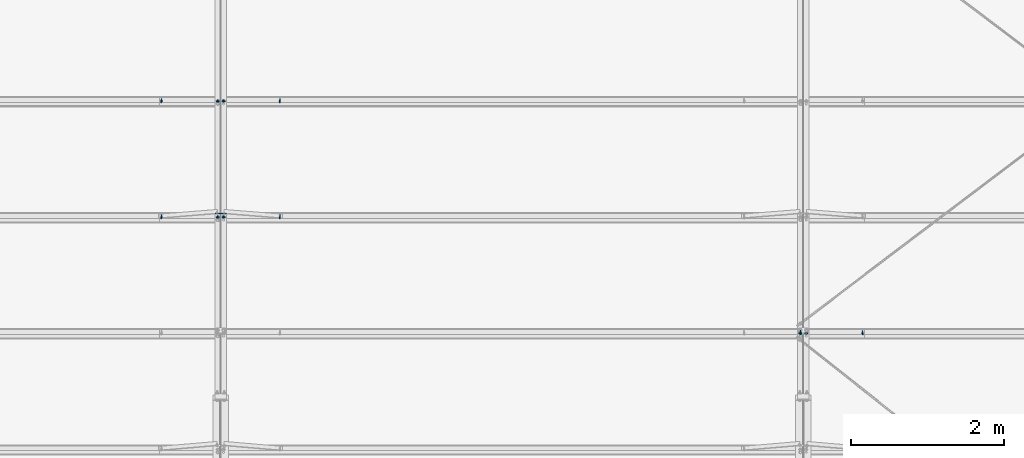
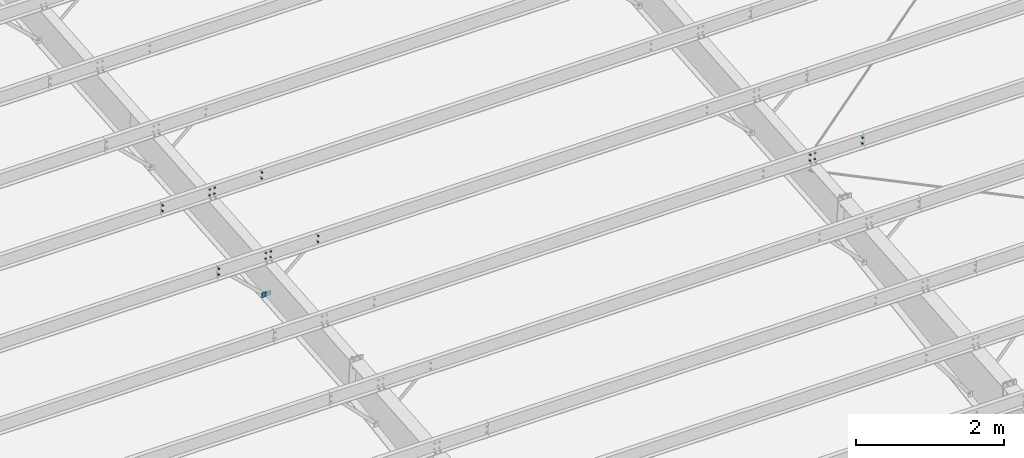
# One storey, part 77 of 185: 12 mechanical fasteners, 2 discrete accessories, 8 elements without a shape of their own.
"""IFC2X3 building model written with IfcOpenShell, lengths in millimetres."""

from ifc_helpers import new_model, si_unit, frame, origin_with_axes, origin_2d_with_axis, place, context, subcontext, project, spatial, polyline, rectangle, circle, outline, extrude, source, transform, mapped, material, type_object, element, aggregate, save


model = new_model("IFC2X3")

# Units and contexts
model_context = context("Model", 3, precision=1e-05, world=origin_with_axes())
body_context = subcontext(model_context, "Body", "Model", "MODEL_VIEW")
ifc_project = project(units=[si_unit("LENGTHUNIT", "METRE", prefix="MILLI"), si_unit("AREAUNIT", "SQUARE_METRE"), si_unit("VOLUMEUNIT", "CUBIC_METRE"), si_unit("MASSUNIT", "GRAM", prefix="KILO"), si_unit("TIMEUNIT", "SECOND"), si_unit("PLANEANGLEUNIT", "RADIAN"), si_unit("SOLIDANGLEUNIT", "STERADIAN"), si_unit("THERMODYNAMICTEMPERATUREUNIT", "DEGREE_CELSIUS"), si_unit("LUMINOUSINTENSITYUNIT", "LUMEN")], contexts=[model_context])

# Site, building, storey
site_placement = place(None, origin_with_axes())
site = spatial("IfcSite", under=ifc_project, at=site_placement, Name="Undefined", CompositionType="ELEMENT")
building_placement = place(site_placement, origin_with_axes())
building = spatial("IfcBuilding", under=site, at=building_placement, Name="Undefined", CompositionType="ELEMENT")
storey_placement = place(building_placement, origin_with_axes())
storey = spatial("IfcBuildingStorey", under=building, at=storey_placement, Name="Undefined", CompositionType="ELEMENT", Elevation=0.0)

# Assembly, mechanical fastener
assembly_1_placement = place(storey_placement, origin_with_axes())
assembly_1 = element("IfcElementAssembly", 1, at=assembly_1_placement, inside=storey, Name="Steel Assembly", AssemblyPlace="NOTDEFINED", PredefinedType="RIGID_FRAME")
ifc_material_1 = material(Name="Undefined")
discrete_accessory_type_1 = type_object("IfcDiscreteAccessoryType", Name="Bolt assembly")
shared_shape_1 = source(origin_with_axes(), body_context, "Body", "SweptSolid", [
    extrude(circle(Radius=7.14374971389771, at=origin_2d_with_axis()), frame((0.0, -1.59000001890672, 0.0), z_axis=(0.0, 1.0, 0.0), x_axis=(1.0, 0.0, 0.0)), (0.0, 0.0, 1.0), 3.3),
    extrude(circle(Radius=13.4937496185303, at=origin_2d_with_axis()), frame((0.0, -5.5587500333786, 0.0), z_axis=(0.0, 1.0, 0.0), x_axis=(1.0, 0.0, 0.0)), (0.0, 0.0, 1.0), 4.0),
    extrude(circle(Radius=22.2250003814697, at=origin_2d_with_axis()), frame((0.0, 1.5900000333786, 0.0), z_axis=(0.0, 1.0, 0.0), x_axis=(1.0, 0.0, 0.0)), (0.0, 0.0, 1.0), 7.9),
    extrude(outline(polyline([(12.8316099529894, 0.0), (6.4158049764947, 11.1125001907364), (-6.4158049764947, 11.1125001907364), (-12.8316099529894, 0.0), (-6.4158049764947, -11.1125001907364), (6.4158049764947, -11.1125001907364), (12.8316099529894, 0.0)])), frame((0.0, 9.5275000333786, 0.0), z_axis=(0.0, 1.0, 0.0), x_axis=(1.0, 0.0, 0.0)), (0.0, 0.0, 1.0), 12.3),
])
mechanical_fastener_1_placement = place(assembly_1_placement, frame((30137.1, 6590.05757436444, 6594.19538192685), z_axis=(1.0, 0.0, 0.0), x_axis=(0.0, 0.0830454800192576, -0.996545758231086)))
mechanical_fastener_1 = element("IfcMechanicalFastener", 2, at=mechanical_fastener_1_placement, type_object=discrete_accessory_type_1, material=ifc_material_1, Name="Bolt assembly", NominalDiameter=12.6999998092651, NominalLength=38.0999984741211, context=body_context, shape_type="MappedRepresentation", body=[
    mapped(shared_shape_1, transform((0.0, 0.0, 0.0))),
    mapped(shared_shape_1, transform((101.599998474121, 0.0, 0.0))),
])
aggregate(assembly_1, [mechanical_fastener_1])

assembly_2_placement = place(storey_placement, origin_with_axes())
assembly_2 = element("IfcElementAssembly", 3, at=assembly_2_placement, inside=storey, Name="Steel Assembly", AssemblyPlace="NOTDEFINED", PredefinedType="RIGID_FRAME")
mechanical_fastener_2_placement = place(assembly_2_placement, frame((30060.9, 6590.05757430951, 6594.19538268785), z_axis=(1.0, 0.0, 0.0), x_axis=(0.0, 0.0830454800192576, -0.996545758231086)))
mechanical_fastener_2 = element("IfcMechanicalFastener", 4, at=mechanical_fastener_2_placement, type_object=discrete_accessory_type_1, material=ifc_material_1, Name="Bolt assembly", NominalDiameter=12.6999998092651, NominalLength=38.0999984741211, context=body_context, shape_type="MappedRepresentation", body=[
    mapped(shared_shape_1, transform((0.0, 0.0, 0.0))),
    mapped(shared_shape_1, transform((101.599998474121, 0.0, 0.0))),
])

assembly_3_placement = place(storey_placement, origin_with_axes())
assembly_3 = element("IfcElementAssembly", 5, at=assembly_3_placement, inside=storey, Name="Steel Assembly", AssemblyPlace="NOTDEFINED", PredefinedType="RIGID_FRAME")
mechanical_fastener_3_placement = place(assembly_3_placement, frame((22517.1, 8108.79330990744, 6720.75669347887), z_axis=(1.0, 0.0, 0.0), x_axis=(0.0, 0.0830454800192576, -0.996545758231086)))
mechanical_fastener_3 = element("IfcMechanicalFastener", 6, at=mechanical_fastener_3_placement, type_object=discrete_accessory_type_1, material=ifc_material_1, Name="Bolt assembly", NominalDiameter=12.6999998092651, NominalLength=38.0999984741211, context=body_context, shape_type="MappedRepresentation", body=[
    mapped(shared_shape_1, transform((0.0, 0.0, 0.0))),
    mapped(shared_shape_1, transform((101.599998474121, 0.0, 0.0))),
])
aggregate(assembly_3, [mechanical_fastener_3])

assembly_4_placement = place(storey_placement, origin_with_axes())
assembly_4 = element("IfcElementAssembly", 7, at=assembly_4_placement, inside=storey, Name="Steel Assembly", AssemblyPlace="NOTDEFINED", PredefinedType="RIGID_FRAME")
mechanical_fastener_4_placement = place(assembly_4_placement, frame((22440.9, 8108.79330990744, 6720.75669347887), z_axis=(1.0, 0.0, 0.0), x_axis=(0.0, 0.0830454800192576, -0.996545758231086)))
mechanical_fastener_4 = element("IfcMechanicalFastener", 8, at=mechanical_fastener_4_placement, type_object=discrete_accessory_type_1, material=ifc_material_1, Name="Bolt assembly", NominalDiameter=12.6999998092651, NominalLength=38.0999984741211, context=body_context, shape_type="MappedRepresentation", body=[
    mapped(shared_shape_1, transform((0.0, 0.0, 0.0))),
    mapped(shared_shape_1, transform((101.599998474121, 0.0, 0.0))),
])

assembly_5_placement = place(storey_placement, origin_with_axes())
assembly_5 = element("IfcElementAssembly", 9, at=assembly_5_placement, inside=storey, Name="Steel Assembly", AssemblyPlace="NOTDEFINED", PredefinedType="RIGID_FRAME")
mechanical_fastener_5_placement = place(assembly_5_placement, frame((22517.1, 9627.52904545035, 6847.31800503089), z_axis=(1.0, 0.0, 0.0), x_axis=(0.0, 0.0830454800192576, -0.996545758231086)))
mechanical_fastener_5 = element("IfcMechanicalFastener", 10, at=mechanical_fastener_5_placement, type_object=discrete_accessory_type_1, material=ifc_material_1, Name="Bolt assembly", NominalDiameter=12.6999998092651, NominalLength=38.0999984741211, context=body_context, shape_type="MappedRepresentation", body=[
    mapped(shared_shape_1, transform((0.0, 0.0, 0.0))),
    mapped(shared_shape_1, transform((101.599998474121, 0.0, 0.0))),
])
aggregate(assembly_5, [mechanical_fastener_5])

assembly_6_placement = place(storey_placement, origin_with_axes())
assembly_6 = element("IfcElementAssembly", 11, at=assembly_6_placement, inside=storey, Name="Steel Assembly", AssemblyPlace="NOTDEFINED", PredefinedType="RIGID_FRAME")
mechanical_fastener_6_placement = place(assembly_6_placement, frame((22440.9, 9627.52904545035, 6847.31800503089), z_axis=(1.0, 0.0, 0.0), x_axis=(0.0, 0.0830454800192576, -0.996545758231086)))
mechanical_fastener_6 = element("IfcMechanicalFastener", 12, at=mechanical_fastener_6_placement, type_object=discrete_accessory_type_1, material=ifc_material_1, Name="Bolt assembly", NominalDiameter=12.6999998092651, NominalLength=38.0999984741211, context=body_context, shape_type="MappedRepresentation", body=[
    mapped(shared_shape_1, transform((0.0, 0.0, 0.0))),
    mapped(shared_shape_1, transform((101.599998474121, 0.0, 0.0))),
])

# Assembly, discrete accessories
assembly_7_placement = place(storey_placement, origin_with_axes())
assembly_7 = element("IfcElementAssembly", 13, at=assembly_7_placement, inside=storey, Name="Steel Assembly", AssemblyPlace="NOTDEFINED", PredefinedType="RIGID_FRAME")
ifc_material_2 = material(Name="STEEL/55")
discrete_accessory_type_2 = type_object("IfcDiscreteAccessoryType", Name="FLANGE BRACE FLIP")
discrete_accessory_1_placement = place(assembly_7_placement, frame((22480.70815, 8167.47255645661, 5996.03869125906), z_axis=(0.0, -0.0830454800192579, 0.996545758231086), x_axis=(1.0, 0.0, 0.0)))
discrete_accessory_1 = element("IfcDiscreteAccessory", 14, at=discrete_accessory_1_placement, type_object=discrete_accessory_type_2, material=ifc_material_2, Name="FLANGE BRACE FLIP", ObjectType="PL1/8\"X2 3/4\"", context=body_context, shape_type="SweptSolid", body=[
    extrude(rectangle(XDim=3.416, YDim=85.725, at=origin_2d_with_axis()), frame((69.8499999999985, 0.0, 0.0), z_axis=(-1.0, 0.0, 0.0), x_axis=(0.0, -1.0, 0.0)), (0.0, 0.0, 1.0), 69.8),
])
discrete_accessory_2_placement = place(assembly_7_placement, frame((22477.29185, 8167.47255645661, 5996.03869125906), z_axis=(0.0, -0.0830454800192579, 0.996545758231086), x_axis=(-1.0, 0.0, 0.0)))
discrete_accessory_2 = element("IfcDiscreteAccessory", 15, at=discrete_accessory_2_placement, type_object=discrete_accessory_type_2, material=ifc_material_2, Name="FLANGE BRACE FLIP", ObjectType="PL1/8\"X2 3/4\"", context=body_context, shape_type="SweptSolid", body=[
    extrude(rectangle(XDim=3.416, YDim=85.725, at=origin_2d_with_axis()), frame((69.8499999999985, 0.0, 0.0), z_axis=(-1.0, 0.0, 0.0), x_axis=(0.0, -1.0, 0.0)), (0.0, 0.0, 1.0), 69.8),
])
aggregate(assembly_7, [discrete_accessory_1, discrete_accessory_2])

# Assembly, mechanical fastener
assembly_8_placement = place(storey_placement, origin_with_axes())
assembly_8 = element("IfcElementAssembly", 16, at=assembly_8_placement, inside=storey, Name="Steel Assembly", AssemblyPlace="NOTDEFINED", PredefinedType="RIGID_FRAME")
shared_shape_2 = source(origin_with_axes(), body_context, "Body", "SweptSolid", [
    extrude(circle(Radius=7.14374971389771, at=origin_2d_with_axis()), frame((0.0, 0.0, 0.0), z_axis=(0.0, 1.0, 0.0), x_axis=(1.0, 0.0, 0.0)), (0.0, 0.0, 1.0), 4.9),
    extrude(outline(polyline([(12.8316099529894, 0.0), (6.4158049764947, 11.1125001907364), (-6.4158049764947, 11.1125001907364), (-12.8316099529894, 0.0), (-6.4158049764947, -11.1125001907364), (6.4158049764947, -11.1125001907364), (12.8316099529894, 0.0)])), frame((0.0, -11.9062498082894, 0.0), z_axis=(0.0, 1.0, 0.0), x_axis=(1.0, 0.0, 0.0)), (0.0, 0.0, 1.0), 7.9),
    extrude(circle(Radius=6.34999990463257, at=origin_2d_with_axis()), frame((0.0, -3.96874999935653, 0.0), z_axis=(0.0, 1.0, 0.0), x_axis=(1.0, 0.0, 0.0)), (0.0, 0.0, 1.0), 50.8),
    extrude(circle(Radius=13.4937496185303, at=origin_2d_with_axis()), frame((0.0, -3.96874999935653, 0.0), z_axis=(0.0, 1.0, 0.0), x_axis=(1.0, 0.0, 0.0)), (0.0, 0.0, 1.0), 4.0),
    extrude(circle(Radius=22.2250003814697, at=origin_2d_with_axis()), frame((0.0, 4.76000382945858, 0.0), z_axis=(0.0, 1.0, 0.0), x_axis=(1.0, 0.0, 0.0)), (0.0, 0.0, 1.0), 7.9),
    extrude(outline(polyline([(12.8316099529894, 0.0), (6.4158049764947, 11.1125001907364), (-6.4158049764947, 11.1125001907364), (-12.8316099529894, 0.0), (-6.4158049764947, -11.1125001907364), (6.4158049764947, -11.1125001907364), (12.8316099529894, 0.0)])), frame((0.0, 12.6975038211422, 0.0), z_axis=(0.0, 1.0, 0.0), x_axis=(1.0, 0.0, 0.0)), (0.0, 0.0, 1.0), 12.3),
])
mechanical_fastener_7_placement = place(assembly_8_placement, frame((30060.9, 6590.05757430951, 6594.19538268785), z_axis=(1.0, 0.0, 0.0), x_axis=(0.0, 0.0830454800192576, -0.996545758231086)))
mechanical_fastener_7 = element("IfcMechanicalFastener", 17, at=mechanical_fastener_7_placement, type_object=discrete_accessory_type_1, material=ifc_material_1, Name="Bolt assembly", NominalDiameter=12.6999998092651, NominalLength=50.7999992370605, context=body_context, shape_type="MappedRepresentation", body=[
    mapped(shared_shape_2, transform((0.0, 0.0, 0.0))),
    mapped(shared_shape_2, transform((101.599998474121, 0.0, 0.0))),
])
aggregate(assembly_8, [mechanical_fastener_7])

# Mechanical fastener
shared_shape_3 = source(origin_with_axes(), body_context, "Body", "SweptSolid", [
    extrude(circle(Radius=7.14374971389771, at=origin_2d_with_axis()), frame((0.0, -1.4900000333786, 0.0), z_axis=(0.0, 1.0, 0.0), x_axis=(1.0, 0.0, 0.0)), (0.0, 0.0, 1.0), 3.2),
    extrude(circle(Radius=7.14374971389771, at=origin_2d_with_axis()), frame((0.0, -1.4900000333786, 0.0), z_axis=(0.0, 1.0, 0.0), x_axis=(1.0, 0.0, 0.0)), (0.0, 0.0, 1.0), 3.2),
    extrude(outline(polyline([(10.9985221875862, 0.0), (5.4992610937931, 9.52499961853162), (-5.4992610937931, 9.52499961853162), (-10.9985221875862, 0.0), (-5.4992610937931, -9.52499961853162), (5.4992610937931, -9.52499961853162), (10.9985221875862, 0.0)])), frame((0.0, -11.1149996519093, 0.0), z_axis=(0.0, 1.0, 0.0), x_axis=(1.0, 0.0, 0.0)), (0.0, 0.0, 1.0), 9.5),
    extrude(circle(Radius=6.34999990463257, at=origin_2d_with_axis()), frame((0.0, -1.59000001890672, 0.0), z_axis=(0.0, 1.0, 0.0), x_axis=(1.0, 0.0, 0.0)), (0.0, 0.0, 1.0), 38.1),
    extrude(outline(polyline([(12.8316099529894, 0.0), (6.4158049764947, 11.1125001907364), (-6.4158049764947, 11.1125001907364), (-12.8316099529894, 0.0), (-6.4158049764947, -11.1125001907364), (6.4158049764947, -11.1125001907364), (12.8316099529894, 0.0)])), frame((0.0, 1.5900000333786, 0.0), z_axis=(0.0, 1.0, 0.0), x_axis=(1.0, 0.0, 0.0)), (0.0, 0.0, 1.0), 12.3),
])
mechanical_fastener_8_placement = place(assembly_2_placement, frame((30873.7, 6590.05757436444, 6594.19538192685), z_axis=(1.0, 0.0, 0.0), x_axis=(0.0, 0.0830454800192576, -0.996545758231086)))
mechanical_fastener_8 = element("IfcMechanicalFastener", 18, at=mechanical_fastener_8_placement, type_object=discrete_accessory_type_1, material=ifc_material_1, Name="Bolt assembly", NominalDiameter=12.6999998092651, NominalLength=38.0999984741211, context=body_context, shape_type="MappedRepresentation", body=[
    mapped(shared_shape_3, transform((0.0, 0.0, 0.0))),
    mapped(shared_shape_3, transform((101.599998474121, 0.0, 0.0))),
])

aggregate(assembly_2, [mechanical_fastener_8, mechanical_fastener_2])

mechanical_fastener_9_placement = place(assembly_4_placement, frame((23253.7, 8108.79330990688, 6720.75669347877), z_axis=(1.0, 0.0, 0.0), x_axis=(0.0, 0.0830454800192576, -0.996545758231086)))
mechanical_fastener_9 = element("IfcMechanicalFastener", 19, at=mechanical_fastener_9_placement, type_object=discrete_accessory_type_1, material=ifc_material_1, Name="Bolt assembly", NominalDiameter=12.6999998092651, NominalLength=38.0999984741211, context=body_context, shape_type="MappedRepresentation", body=[
    mapped(shared_shape_3, transform((0.0, 0.0, 0.0))),
    mapped(shared_shape_3, transform((101.599998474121, 0.0, 0.0))),
])

mechanical_fastener_10_placement = place(assembly_4_placement, frame((21704.3, 8108.79330990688, 6720.75669347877), z_axis=(1.0, 0.0, 0.0), x_axis=(0.0, 0.0830454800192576, -0.996545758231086)))
mechanical_fastener_10 = element("IfcMechanicalFastener", 20, at=mechanical_fastener_10_placement, type_object=discrete_accessory_type_1, material=ifc_material_1, Name="Bolt assembly", NominalDiameter=12.6999998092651, NominalLength=38.0999984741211, context=body_context, shape_type="MappedRepresentation", body=[
    mapped(shared_shape_3, transform((0.0, 0.0, 0.0))),
    mapped(shared_shape_3, transform((101.599998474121, 0.0, 0.0))),
])

aggregate(assembly_4, [mechanical_fastener_4, mechanical_fastener_9, mechanical_fastener_10])

mechanical_fastener_11_placement = place(assembly_6_placement, frame((23253.7, 9627.52904545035, 6847.31800503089), z_axis=(1.0, 0.0, 0.0), x_axis=(0.0, 0.0830454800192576, -0.996545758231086)))
mechanical_fastener_11 = element("IfcMechanicalFastener", 21, at=mechanical_fastener_11_placement, type_object=discrete_accessory_type_1, material=ifc_material_1, Name="Bolt assembly", NominalDiameter=12.6999998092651, NominalLength=38.0999984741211, context=body_context, shape_type="MappedRepresentation", body=[
    mapped(shared_shape_3, transform((0.0, 0.0, 0.0))),
    mapped(shared_shape_3, transform((101.599998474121, 0.0, 0.0))),
])

mechanical_fastener_12_placement = place(assembly_6_placement, frame((21704.3, 9627.52904545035, 6847.31800503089), z_axis=(1.0, 0.0, 0.0), x_axis=(0.0, 0.0830454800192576, -0.996545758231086)))
mechanical_fastener_12 = element("IfcMechanicalFastener", 22, at=mechanical_fastener_12_placement, type_object=discrete_accessory_type_1, material=ifc_material_1, Name="Bolt assembly", NominalDiameter=12.6999998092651, NominalLength=38.0999984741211, context=body_context, shape_type="MappedRepresentation", body=[
    mapped(shared_shape_3, transform((0.0, 0.0, 0.0))),
    mapped(shared_shape_3, transform((101.599998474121, 0.0, 0.0))),
])

aggregate(assembly_6, [mechanical_fastener_6, mechanical_fastener_11, mechanical_fastener_12])

save(model, "model.ifc")
